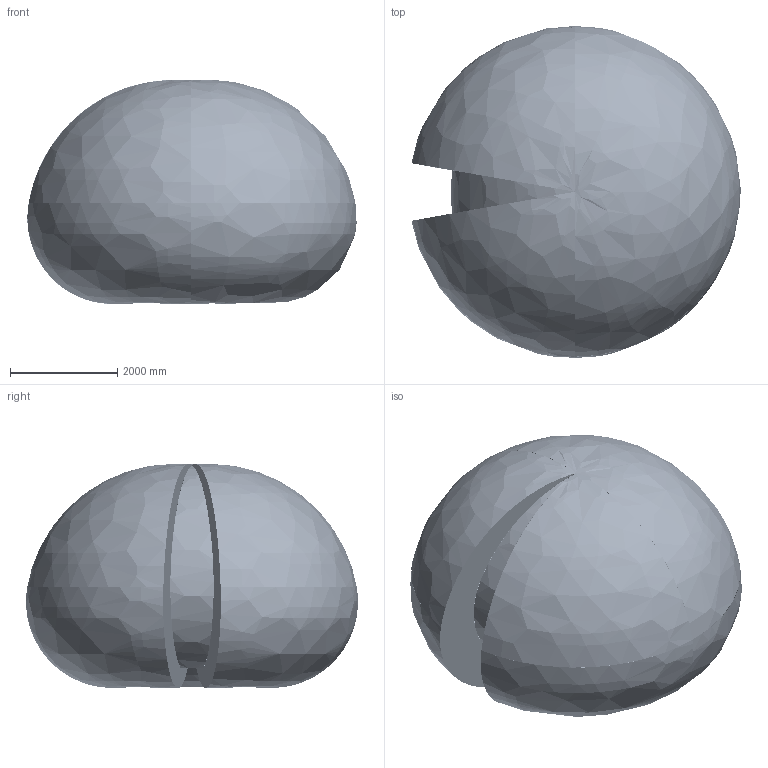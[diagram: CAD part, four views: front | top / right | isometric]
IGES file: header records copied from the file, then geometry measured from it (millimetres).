
Start section: SolidWorks IGES file using analytic representation for surfaces
Global section: file name: C:\DATA\SAP_DOC\LW\IRB 6730\IRB6730_210kg-310_OC_01_SW_J\Export\IRB6730_210kg-310_OC_01_IGES_J\IRB6730_210kg-310_OC_01_ASM_CAD.igs; native system: SolidWorks 2024; preprocessor: SolidWorks 2024; author: SEJOVAS3; date: 260526.104240; units: millimetre
Bounding box: 6143.45 x 6194.16 x 4176.83 mm (x, y, z)
Surface area: 139057773.9 mm2 (no closed solid volume)
Topology: 0 solids, 0 shells, 8151 faces, 126739 edges, 126593 vertices
Faces by surface type: bspline 4774, revolution 3377
